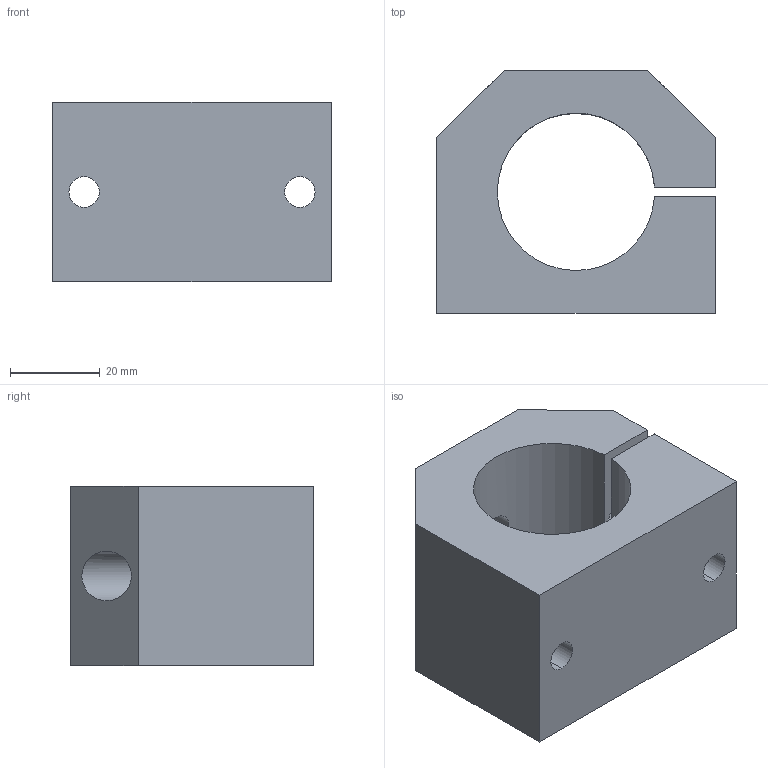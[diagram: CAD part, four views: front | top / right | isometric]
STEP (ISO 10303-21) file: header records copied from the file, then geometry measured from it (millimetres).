
FILE_DESCRIPTION (( 'STEP AP214' ), '1' );
FILE_NAME ('KGCE28 25.step', '2020-03-04T13:08:14', ( '' ), ( '' ), 'SwSTEP 2.0', 'SolidWorks 2019', '' );
FILE_SCHEMA (( 'AUTOMOTIVE_DESIGN' ));
Length unit declared in the file: millimetre
Products named in the file (1): KGCE28 25
Bounding box: 62 x 54 x 40 mm (x, y, z)
Volume: 75797.1 mm3; surface area: 21746.3 mm2
Topology: 1 solids, 1 shells, 41 faces, 104 edges, 66 vertices
Faces by surface type: cylinder 23, plane 14, cone 4
Entity records: 1442 total; most frequent: CARTESIAN_POINT 296, DIRECTION 210, ORIENTED_EDGE 200, EDGE_CURVE 100, AXIS2_PLACEMENT_3D 78, VERTEX_POINT 66, EDGE_LOOP 58, LINE 54
